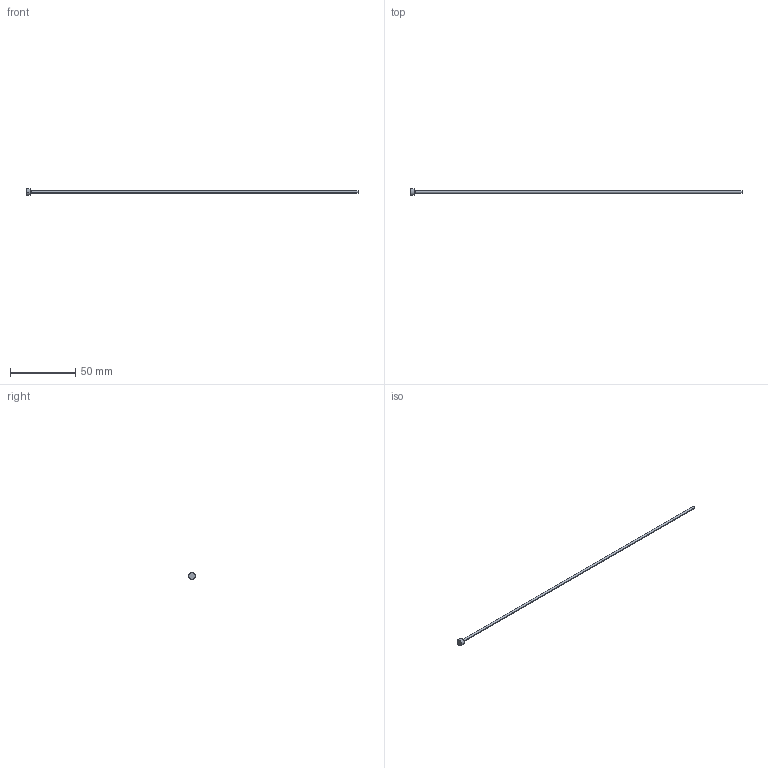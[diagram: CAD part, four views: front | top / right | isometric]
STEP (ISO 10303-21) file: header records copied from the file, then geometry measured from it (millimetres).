
FILE_DESCRIPTION (( 'STEP AP214' ), '1' );
FILE_NAME ('P6-10.STEP', '2020-03-11T16:27:35', ( '' ), ( '' ), 'SwSTEP 2.0', 'SolidWorks 2018', '' );
FILE_SCHEMA (( 'AUTOMOTIVE_DESIGN' ));
Length unit declared in the file: inch
Products named in the file (1): P6-10
Bounding box: 254 x 5.16 x 5.16 mm (x, y, z)
Volume: 836.9 mm3; surface area: 1647.2 mm2
Topology: 1 solids, 1 shells, 13 faces, 24 edges, 14 vertices
Faces by surface type: cone 4, cylinder 4, plane 3, torus 2
Entity records: 366 total; most frequent: DIRECTION 68, CARTESIAN_POINT 52, ORIENTED_EDGE 48, AXIS2_PLACEMENT_3D 30, EDGE_CURVE 24, CIRCLE 16, EDGE_LOOP 14, VERTEX_POINT 14
